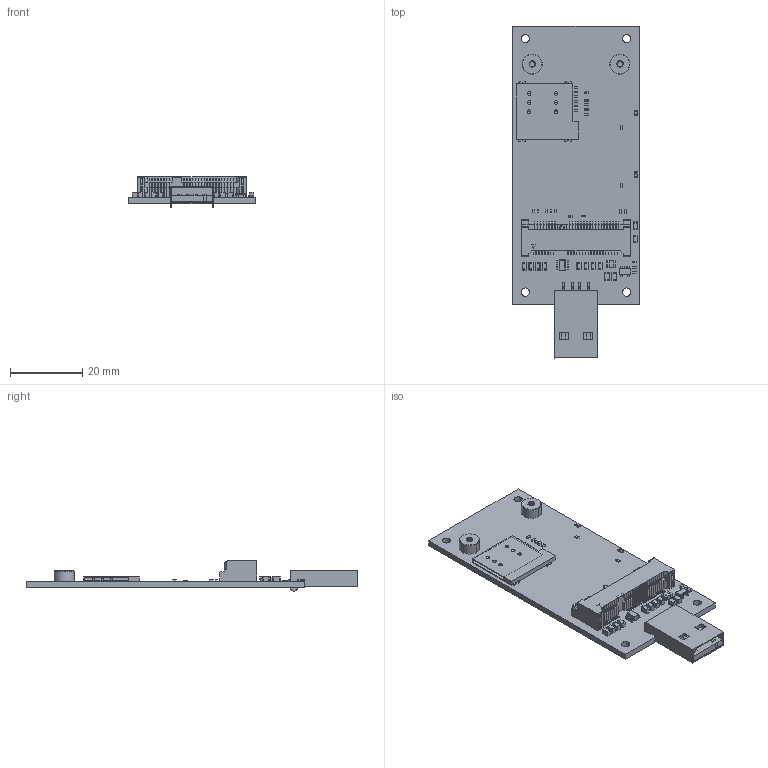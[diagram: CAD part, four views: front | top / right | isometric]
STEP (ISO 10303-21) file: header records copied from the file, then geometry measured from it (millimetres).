
FILE_DESCRIPTION(('Open CASCADE Model'),'2;1');
FILE_NAME('Open CASCADE Shape Model','2023-06-23T13:34:54',('Author'),( 'Open CASCADE'),'Open CASCADE STEP processor 6.8','Open CASCADE 6.8' ,'Unknown');
FILE_SCHEMA(('AUTOMOTIVE_DESIGN { 1 0 10303 214 1 1 1 1 }'));
Products named in the file (1): PCB
Bounding box: 35 x 91.7 x 8.35 mm (x, y, z)
Volume: 6574.8 mm3; surface area: 11067.2 mm2
Topology: 118 solids, 396 shells, 4303 faces, 12111 edges, 8041 vertices
Faces by surface type: plane 2740, cylinder 1276, sphere 204, bspline 69, cone 12, torus 2
Full cylindrical faces by diameter (mm): 2.3 x4
Entity records: 143983 total; most frequent: CARTESIAN_POINT 30764, DIRECTION 22493, ORIENTED_EDGE 22458, EDGE_CURVE 11907, LINE 9145, VECTOR 9145, VERTEX_POINT 8041, AXIS2_PLACEMENT_3D 6674
